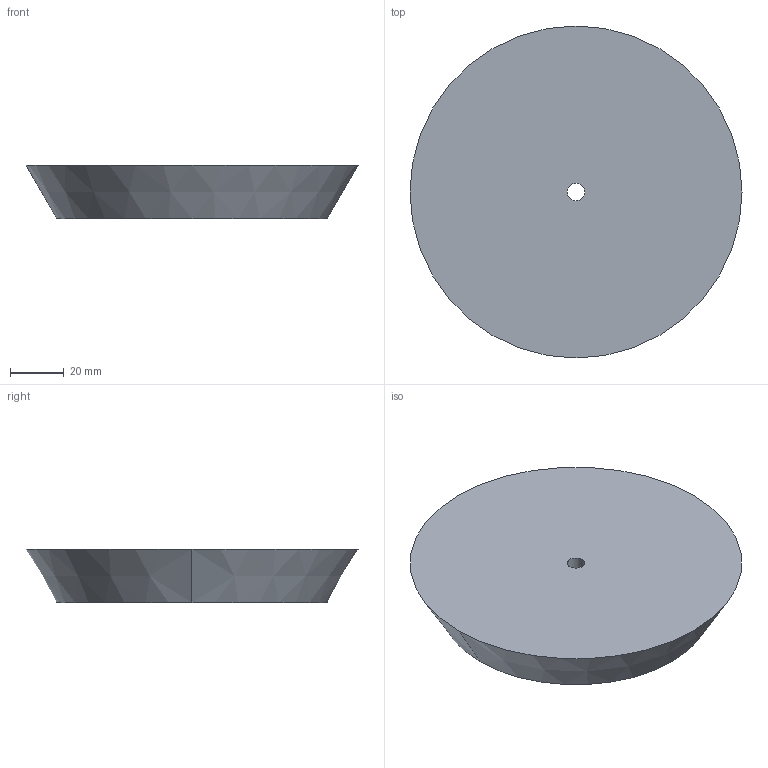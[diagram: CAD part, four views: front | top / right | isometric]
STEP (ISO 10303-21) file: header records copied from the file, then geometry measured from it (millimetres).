
FILE_DESCRIPTION(('CATIA V5 STEP Exchange'),'2;1');
FILE_NAME('C:\Users\andres.garcia\OneDrive - IQS\ASIGNATURAS\DAO\Controles\2223\c0\c1-CRUZ__Alexander-tapon.stp','2023-02-03T08:22:03+00:00',('none'),('none'),'CATIA Version 5-6 Release 2013 SP6','CATIA V5 STEP AP203','none');
FILE_SCHEMA(('CONFIG_CONTROL_DESIGN'));
Length unit declared in the file: millimetre
Products named in the file (1): c1-CRUZ__Alexander-tapon
Bounding box: 124 x 124 x 20 mm (x, y, z)
Volume: 198672.3 mm3; surface area: 28573.9 mm2
Topology: 1 solids, 1 shells, 6 faces, 12 edges, 8 vertices
Faces by surface type: cylinder 2, plane 2, cone 2
Entity records: 196 total; most frequent: CARTESIAN_POINT 26, ORIENTED_EDGE 24, DIRECTION 22, AXIS2_PLACEMENT_3D 14, EDGE_CURVE 12, CIRCLE 8, EDGE_LOOP 8, VERTEX_POINT 8
